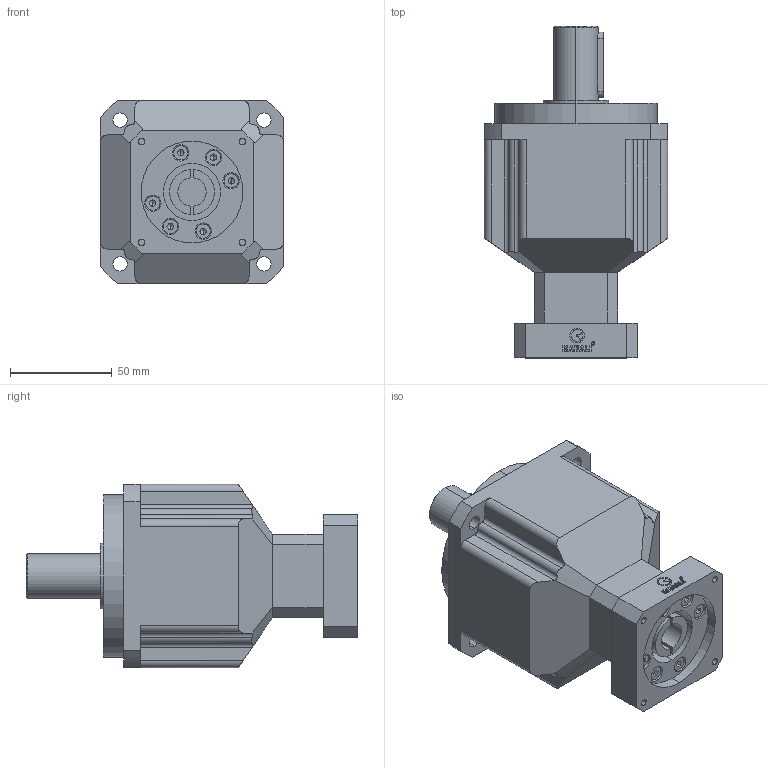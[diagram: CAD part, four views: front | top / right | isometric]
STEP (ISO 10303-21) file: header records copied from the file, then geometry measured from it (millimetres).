
FILE_DESCRIPTION (( 'STEP AP214' ), '1' );
FILE_NAME ('MAB-090-L2.step', '2020-06-27T09:06:09', ( '' ), ( '' ), 'SwSTEP 2.0', 'SolidWorks 2016', '' );
FILE_SCHEMA (( 'AUTOMOTIVE_DESIGN' ));
Length unit declared in the file: millimetre
Products named in the file (1): MAB-090-L2
Bounding box: 90 x 163 x 90 mm (x, y, z)
Volume: 614889.1 mm3; surface area: 63870.7 mm2
Topology: 1 solids, 1 shells, 480 faces, 1249 edges, 811 vertices
Faces by surface type: plane 275, cylinder 108, bspline 67, cone 30
Entity records: 20541 total; most frequent: CARTESIAN_POINT 3906, ORIENTED_EDGE 2470, DIRECTION 2071, EDGE_CURVE 1235, LINE 847, VECTOR 847, VERTEX_POINT 811, AXIS2_PLACEMENT_3D 612
